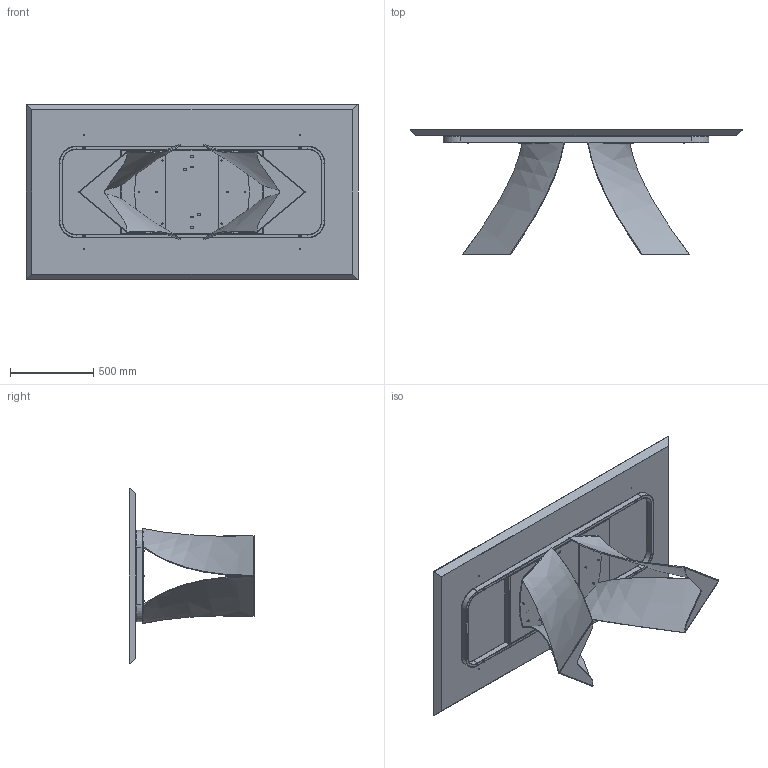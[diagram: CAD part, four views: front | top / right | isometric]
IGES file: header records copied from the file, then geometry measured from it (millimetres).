
Start section: SolidWorks IGES file using analytic representation for surfaces
Global section: file name: Y:\eforma\TECNICO\SOLIDWORKS\E-FORMA\1-TAVOLI\TWIST\02 parts\TW21W.IGS; native system: SolidWorks 2022; preprocessor: SolidWorks 2022; author: eforma.tech; date: 240807.143325; units: millimetre
Bounding box: 2000 x 753.37 x 1060 mm (x, y, z)
Volume: 87236293.4 mm3; surface area: 8755952.4 mm2
Topology: 52 solids, 52 shells, 1292 faces, 3032 edges, 1813 vertices
Faces by surface type: revolution 754, plane 472, bspline 66
